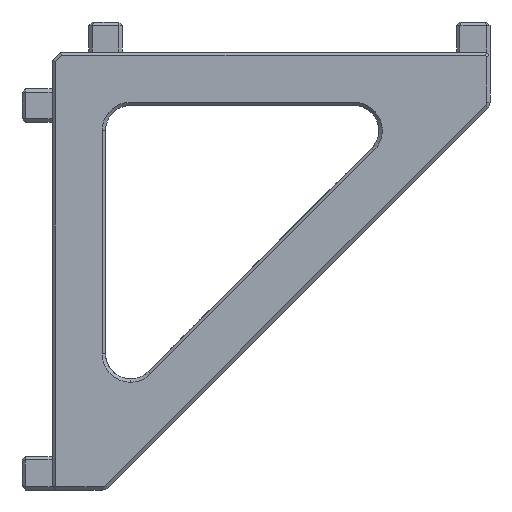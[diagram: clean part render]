
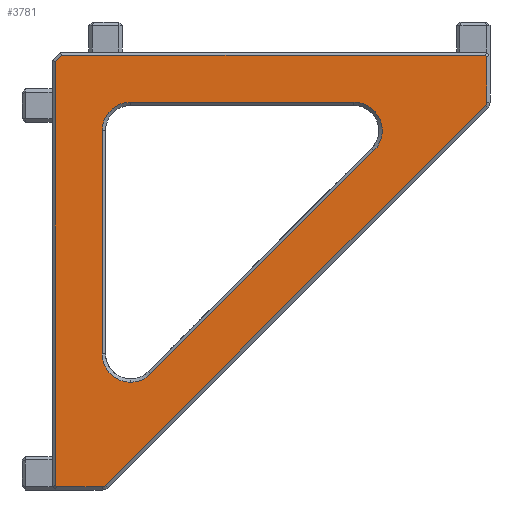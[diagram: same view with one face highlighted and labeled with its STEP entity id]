
A CAD part, front view. The second image highlights one B-rep face of the part: STEP entity #3781.
In plain terms, the highlighted planar face has unit normal (0, -1, 0).
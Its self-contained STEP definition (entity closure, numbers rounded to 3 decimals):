
#40 = DIRECTION ( 'NONE',  ( 0., 1., 0. ) ) ;
#108 = DIRECTION ( 'NONE',  ( 0., -1., 0. ) ) ;
#110 = LINE ( 'NONE', #1917, #2849 ) ;
#133 = AXIS2_PLACEMENT_3D ( 'NONE', #4123, #40, #1851 ) ;
#155 = EDGE_CURVE ( 'NONE', #4840, #1510, #5054, .T. ) ;
#161 = CARTESIAN_POINT ( 'NONE',  ( 27.712, 0., -5.005 ) ) ;
#239 = CARTESIAN_POINT ( 'NONE',  ( 2.383, 0., -2. ) ) ;
#261 = AXIS2_PLACEMENT_3D ( 'NONE', #2149, #3980, #5789 ) ;
#263 = EDGE_CURVE ( 'NONE', #3564, #3809, #3576, .T. ) ;
#366 = DIRECTION ( 'NONE',  ( -1., 0., 0. ) ) ;
#409 = LINE ( 'NONE', #2211, #3974 ) ;
#495 = DIRECTION ( 'NONE',  ( -0.707, 0., -0.707 ) ) ;
#507 = EDGE_CURVE ( 'NONE', #3213, #3946, #2750, .T. ) ;
#524 = EDGE_CURVE ( 'NONE', #5396, #3690, #4186, .T. ) ;
#551 = CARTESIAN_POINT ( 'NONE',  ( 0., 0., 0. ) ) ;
#582 = CARTESIAN_POINT ( 'NONE',  ( 4.8, 0., 0. ) ) ;
#594 = EDGE_CURVE ( 'NONE', #5380, #4840, #110, .T. ) ;
#610 = CARTESIAN_POINT ( 'NONE',  ( 19.853, 0., -4.8 ) ) ;
#612 = CIRCLE ( 'NONE', #3936, 1.7 ) ;
#618 = LINE ( 'NONE', #2422, #1260 ) ;
#694 = CARTESIAN_POINT ( 'NONE',  ( 27.8, 0., 0. ) ) ;
#807 = CARTESIAN_POINT ( 'NONE',  ( 2.083, 0., -27.8 ) ) ;
#832 = EDGE_CURVE ( 'NONE', #4137, #5396, #5255, .T. ) ;
#943 = ORIENTED_EDGE ( 'NONE', *, *, #3957, .F. ) ;
#976 = EDGE_LOOP ( 'NONE', ( #2623, #3651, #3121, #4277, #1719, #5612, #943, #2924, #1806, #5293 ) ) ;
#994 = FACE_BOUND ( 'NONE', #4306, .T. ) ;
#1031 = VERTEX_POINT ( 'NONE', #1174 ) ;
#1043 = ORIENTED_EDGE ( 'NONE', *, *, #5858, .F. ) ;
#1051 = EDGE_CURVE ( 'NONE', #1506, #1610, #2088, .T. ) ;
#1174 = CARTESIAN_POINT ( 'NONE',  ( 2., 0., -27.717 ) ) ;
#1177 = CARTESIAN_POINT ( 'NONE',  ( 27.712, 0., -5.005 ) ) ;
#1260 = VECTOR ( 'NONE', #4246, 1000. ) ;
#1296 = VECTOR ( 'NONE', #495, 1000. ) ;
#1333 = VERTEX_POINT ( 'NONE', #3632 ) ;
#1418 = DIRECTION ( 'NONE',  ( -1., 0., 0. ) ) ;
#1506 = VERTEX_POINT ( 'NONE', #4683 ) ;
#1510 = VERTEX_POINT ( 'NONE', #610 ) ;
#1554 = CARTESIAN_POINT ( 'NONE',  ( 2., 0., 0. ) ) ;
#1610 = VERTEX_POINT ( 'NONE', #5374 ) ;
#1624 = DIRECTION ( 'NONE',  ( 0., -1., 0. ) ) ;
#1632 = EDGE_CURVE ( 'NONE', #1510, #3564, #409, .T. ) ;
#1716 = AXIS2_PLACEMENT_3D ( 'NONE', #5705, #1624, #3442 ) ;
#1719 = ORIENTED_EDGE ( 'NONE', *, *, #524, .F. ) ;
#1729 = DIRECTION ( 'NONE',  ( 0., 0., -1. ) ) ;
#1806 = ORIENTED_EDGE ( 'NONE', *, *, #1051, .T. ) ;
#1851 = DIRECTION ( 'NONE',  ( -1., 0., 0. ) ) ;
#1915 = DIRECTION ( 'NONE',  ( 0., 0., -1. ) ) ;
#1917 = CARTESIAN_POINT ( 'NONE',  ( 7.702, 0., -21.055 ) ) ;
#2088 = LINE ( 'NONE', #3916, #5515 ) ;
#2098 = ORIENTED_EDGE ( 'NONE', *, *, #594, .F. ) ;
#2134 = VERTEX_POINT ( 'NONE', #3033 ) ;
#2149 = CARTESIAN_POINT ( 'NONE',  ( 6.5, 0., -6.5 ) ) ;
#2211 = CARTESIAN_POINT ( 'NONE',  ( 0., 0., -4.8 ) ) ;
#2218 = VECTOR ( 'NONE', #2994, 1000. ) ;
#2295 = CARTESIAN_POINT ( 'NONE',  ( 2., 0., -2.383 ) ) ;
#2357 = DIRECTION ( 'NONE',  ( 0., 1., 0. ) ) ;
#2383 = DIRECTION ( 'NONE',  ( 0., 0., -1. ) ) ;
#2418 = VECTOR ( 'NONE', #2615, 1000. ) ;
#2422 = CARTESIAN_POINT ( 'NONE',  ( 0., 0., -27.8 ) ) ;
#2499 = CIRCLE ( 'NONE', #5822, 1.7 ) ;
#2504 = DIRECTION ( 'NONE',  ( 0., 0., -1. ) ) ;
#2585 = EDGE_CURVE ( 'NONE', #3690, #2134, #618, .T. ) ;
#2615 = DIRECTION ( 'NONE',  ( -0.707, 0., 0.707 ) ) ;
#2616 = LINE ( 'NONE', #4440, #4058 ) ;
#2623 = ORIENTED_EDGE ( 'NONE', *, *, #507, .T. ) ;
#2750 = LINE ( 'NONE', #4569, #1296 ) ;
#2806 = FACE_OUTER_BOUND ( 'NONE', #976, .T. ) ;
#2849 = VECTOR ( 'NONE', #3741, 1000. ) ;
#2924 = ORIENTED_EDGE ( 'NONE', *, *, #5527, .F. ) ;
#2994 = DIRECTION ( 'NONE',  ( -0.707, 0., -0.707 ) ) ;
#3033 = CARTESIAN_POINT ( 'NONE',  ( 2.083, 0., -27.8 ) ) ;
#3121 = ORIENTED_EDGE ( 'NONE', *, *, #5704, .F. ) ;
#3188 = CARTESIAN_POINT ( 'NONE',  ( 4.793, 0., -27.8 ) ) ;
#3213 = VERTEX_POINT ( 'NONE', #239 ) ;
#3264 = ORIENTED_EDGE ( 'NONE', *, *, #4073, .F. ) ;
#3280 = VERTEX_POINT ( 'NONE', #4828 ) ;
#3373 = DIRECTION ( 'NONE',  ( 0., 0., 1. ) ) ;
#3442 = DIRECTION ( 'NONE',  ( 0., 0., -1. ) ) ;
#3518 = EDGE_CURVE ( 'NONE', #1610, #3213, #2616, .T. ) ;
#3564 = VERTEX_POINT ( 'NONE', #4467 ) ;
#3576 = CIRCLE ( 'NONE', #261, 1.7 ) ;
#3632 = CARTESIAN_POINT ( 'NONE',  ( 6.5, 0., -21.553 ) ) ;
#3651 = ORIENTED_EDGE ( 'NONE', *, *, #5443, .F. ) ;
#3676 = CARTESIAN_POINT ( 'NONE',  ( 4.793, 0., -27.5 ) ) ;
#3690 = VERTEX_POINT ( 'NONE', #3188 ) ;
#3741 = DIRECTION ( 'NONE',  ( 0.707, 0., 0.707 ) ) ;
#3760 = VECTOR ( 'NONE', #2504, 1000. ) ;
#3781 = ADVANCED_FACE ( 'NONE', ( #994, #2806 ), #4623, .F. ) ;
#3809 = VERTEX_POINT ( 'NONE', #5550 ) ;
#3852 = EDGE_CURVE ( 'NONE', #3280, #1333, #2499, .T. ) ;
#3916 = CARTESIAN_POINT ( 'NONE',  ( 27.8, 0., -2.083 ) ) ;
#3936 = AXIS2_PLACEMENT_3D ( 'NONE', #4189, #108, #1915 ) ;
#3946 = VERTEX_POINT ( 'NONE', #2295 ) ;
#3957 = EDGE_CURVE ( 'NONE', #5543, #4137, #5263, .T. ) ;
#3974 = VECTOR ( 'NONE', #4039, 1000. ) ;
#3980 = DIRECTION ( 'NONE',  ( 0., -1., 0. ) ) ;
#4001 = CARTESIAN_POINT ( 'NONE',  ( 6.5, 0., -19.853 ) ) ;
#4039 = DIRECTION ( 'NONE',  ( -1., 0., 0. ) ) ;
#4058 = VECTOR ( 'NONE', #366, 1000. ) ;
#4073 = EDGE_CURVE ( 'NONE', #1333, #5380, #612, .T. ) ;
#4074 = CARTESIAN_POINT ( 'NONE',  ( 21.055, 0., -7.702 ) ) ;
#4123 = CARTESIAN_POINT ( 'NONE',  ( 27.5, 0., -4.793 ) ) ;
#4137 = VERTEX_POINT ( 'NONE', #161 ) ;
#4182 = DIRECTION ( 'NONE',  ( 0., 0., 1. ) ) ;
#4186 = CIRCLE ( 'NONE', #5700, 0.3 ) ;
#4189 = CARTESIAN_POINT ( 'NONE',  ( 6.5, 0., -19.853 ) ) ;
#4214 = CARTESIAN_POINT ( 'NONE',  ( 7.702, 0., -21.055 ) ) ;
#4246 = DIRECTION ( 'NONE',  ( -1., 0., 0. ) ) ;
#4277 = ORIENTED_EDGE ( 'NONE', *, *, #2585, .F. ) ;
#4306 = EDGE_LOOP ( 'NONE', ( #5469, #5630, #4521, #2098, #3264, #5650, #1043 ) ) ;
#4312 = AXIS2_PLACEMENT_3D ( 'NONE', #551, #2357, #4182 ) ;
#4440 = CARTESIAN_POINT ( 'NONE',  ( 0., 0., -2. ) ) ;
#4467 = CARTESIAN_POINT ( 'NONE',  ( 6.5, 0., -4.8 ) ) ;
#4521 = ORIENTED_EDGE ( 'NONE', *, *, #155, .F. ) ;
#4569 = CARTESIAN_POINT ( 'NONE',  ( 2.383, 0., -2. ) ) ;
#4623 = PLANE ( 'NONE',  #4312 ) ;
#4654 = LINE ( 'NONE', #582, #5182 ) ;
#4683 = CARTESIAN_POINT ( 'NONE',  ( 27.8, 0., -2.083 ) ) ;
#4777 = LINE ( 'NONE', #694, #3760 ) ;
#4803 = VECTOR ( 'NONE', #3373, 1000. ) ;
#4828 = CARTESIAN_POINT ( 'NONE',  ( 4.8, 0., -19.853 ) ) ;
#4840 = VERTEX_POINT ( 'NONE', #4074 ) ;
#4889 = LINE ( 'NONE', #807, #2418 ) ;
#5054 = CIRCLE ( 'NONE', #1716, 1.7 ) ;
#5133 = CARTESIAN_POINT ( 'NONE',  ( 5.005, 0., -27.712 ) ) ;
#5182 = VECTOR ( 'NONE', #2383, 1000. ) ;
#5255 = LINE ( 'NONE', #1177, #2218 ) ;
#5263 = CIRCLE ( 'NONE', #133, 0.3 ) ;
#5293 = ORIENTED_EDGE ( 'NONE', *, *, #3518, .T. ) ;
#5374 = CARTESIAN_POINT ( 'NONE',  ( 27.717, 0., -2. ) ) ;
#5380 = VERTEX_POINT ( 'NONE', #4214 ) ;
#5396 = VERTEX_POINT ( 'NONE', #5133 ) ;
#5443 = EDGE_CURVE ( 'NONE', #1031, #3946, #5637, .T. ) ;
#5469 = ORIENTED_EDGE ( 'NONE', *, *, #263, .F. ) ;
#5498 = DIRECTION ( 'NONE',  ( 0., 1., 0. ) ) ;
#5515 = VECTOR ( 'NONE', #5725, 1000. ) ;
#5527 = EDGE_CURVE ( 'NONE', #1506, #5543, #4777, .T. ) ;
#5543 = VERTEX_POINT ( 'NONE', #5695 ) ;
#5550 = CARTESIAN_POINT ( 'NONE',  ( 4.8, 0., -6.5 ) ) ;
#5612 = ORIENTED_EDGE ( 'NONE', *, *, #832, .F. ) ;
#5630 = ORIENTED_EDGE ( 'NONE', *, *, #1632, .F. ) ;
#5637 = LINE ( 'NONE', #1554, #4803 ) ;
#5650 = ORIENTED_EDGE ( 'NONE', *, *, #3852, .F. ) ;
#5695 = CARTESIAN_POINT ( 'NONE',  ( 27.8, 0., -4.793 ) ) ;
#5700 = AXIS2_PLACEMENT_3D ( 'NONE', #3676, #5498, #1418 ) ;
#5704 = EDGE_CURVE ( 'NONE', #2134, #1031, #4889, .T. ) ;
#5705 = CARTESIAN_POINT ( 'NONE',  ( 19.853, 0., -6.5 ) ) ;
#5725 = DIRECTION ( 'NONE',  ( -0.707, 0., 0.707 ) ) ;
#5789 = DIRECTION ( 'NONE',  ( 0., 0., -1. ) ) ;
#5811 = DIRECTION ( 'NONE',  ( 0., -1., 0. ) ) ;
#5822 = AXIS2_PLACEMENT_3D ( 'NONE', #4001, #5811, #1729 ) ;
#5858 = EDGE_CURVE ( 'NONE', #3809, #3280, #4654, .T. ) ;
